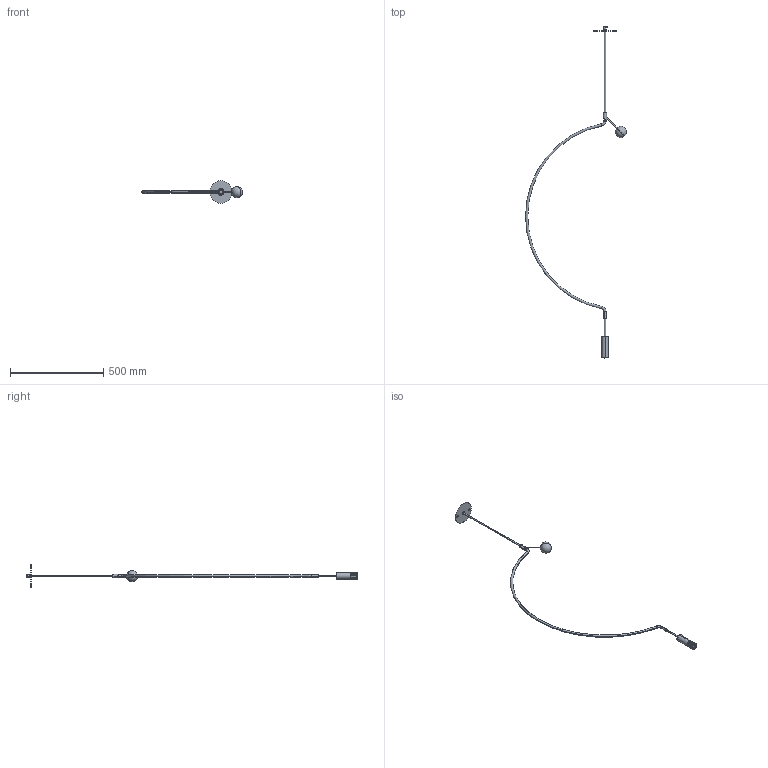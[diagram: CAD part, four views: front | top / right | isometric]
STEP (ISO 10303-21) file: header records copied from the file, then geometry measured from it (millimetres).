
FILE_DESCRIPTION (( 'STEP AP203' ), '1' );
FILE_NAME ('PENDENTE LIAISON INCASSO G-PER 3D.STEP', '2024-05-29T10:18:37', ( '' ), ( '' ), 'SwSTEP 2.0', 'SolidWorks 2024', '' );
FILE_SCHEMA (( 'CONFIG_CONTROL_DESIGN' ));
Length unit declared in the file: millimetre
Products named in the file (16): 1.0A.AXO01.LS03.F2; Rondelle Tornite Sacla_RONDELLA Ø25 F.C. M10X1 - AVS RO25X2; 1.0C.AXO01.LS01.03_rev_A; 1.0C.AXO01.LS01.08_Standard; PENDENTE LIAISON INCASSO G-PER 3D; 1.0C.AXO01.LS01.09_rev_B; 1.0C.AXO01.LS01.13; 1.0A.AXO01.LS01.S1; Grani Acciaio_GRANO M4x0.7 L.4; 1.0C.AXO01.LS03.02; 1.0A.AXO01.LS01.F1_rev_A; 1.0C.AXO01.LS03.50; 1.0C.AXO01.LS01.06_rev_A; 1.0C.AXO01.LS01.12_rev_A; WSASS-000000038-00-PER 3D; 1.0C.AXO01.LS03.01
Assembly tree (15 placements, depth 4):
  PENDENTE LIAISON INCASSO G-PER 3D
    1.0A.AXO01.LS03.F2
      Grani Acciaio_GRANO M4x0.7 L.4
      1.0C.AXO01.LS03.01
      1.0C.AXO01.LS03.50
      1.0A.AXO01.LS01.S1
        1.0C.AXO01.LS01.12_rev_A
        1.0C.AXO01.LS01.03_rev_A
      1.0A.AXO01.LS01.F1_rev_A
        Rondelle Tornite Sacla_RONDELLA Ø25 F.C. M10X1 - AVS RO25X2
        1.0C.AXO01.LS01.08_Standard
        1.0C.AXO01.LS01.09_rev_B
        1.0C.AXO01.LS01.06_rev_A
        1.0C.AXO01.LS01.13
    1.0C.AXO01.LS03.02
    WSASS-000000038-00-PER 3D
Bounding box: 541.59 x 1781.03 x 120 mm (x, y, z)
Volume: 331732.2 mm3; surface area: 225573.7 mm2
Topology: 21 solids, 21 shells, 482 faces, 1255 edges, 757 vertices
Faces by surface type: plane 163, cylinder 153, cone 76, bspline 70, torus 18, sphere 2
Entity records: 22280 total; most frequent: CARTESIAN_POINT 9681, ORIENTED_EDGE 2368, DIRECTION 2137, EDGE_CURVE 1184, AXIS2_PLACEMENT_3D 810, VERTEX_POINT 754, EDGE_LOOP 528, VECTOR 517
